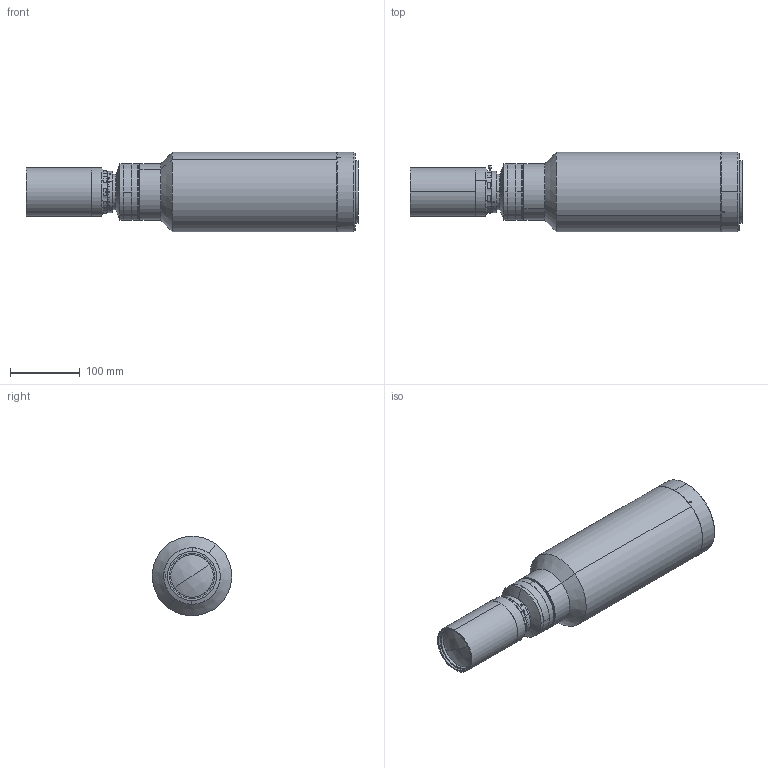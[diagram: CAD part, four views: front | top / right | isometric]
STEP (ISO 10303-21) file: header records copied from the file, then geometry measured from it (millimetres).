
FILE_DESCRIPTION (( 'STEP AP203' ), '1' );
FILE_NAME ('XF-PTL04582-M90-12-VI.STEP', '2021-01-25T06:21:30', ( 'zhanghp' ), ( '' ), 'SwSTEP 2.0', 'SolidWorks 2014', '' );
FILE_SCHEMA (( 'CONFIG_CONTROL_DESIGN' ));
Length unit declared in the file: millimetre
Products named in the file (1): XF-PTL04582-M90-12-VI
Bounding box: 476.42 x 114 x 114 mm (x, y, z)
Surface area: 193734.8 mm2 (no closed solid volume)
Topology: 0 solids, 44 shells, 190 faces, 652 edges, 484 vertices
Faces by surface type: cylinder 118, plane 37, cone 32, sphere 2, bspline 1
Entity records: 8946 total; most frequent: CARTESIAN_POINT 3298, DIRECTION 1233, ORIENTED_EDGE 954, EDGE_CURVE 652, AXIS2_PLACEMENT_3D 508, VERTEX_POINT 484, CIRCLE 318, EDGE_LOOP 222
